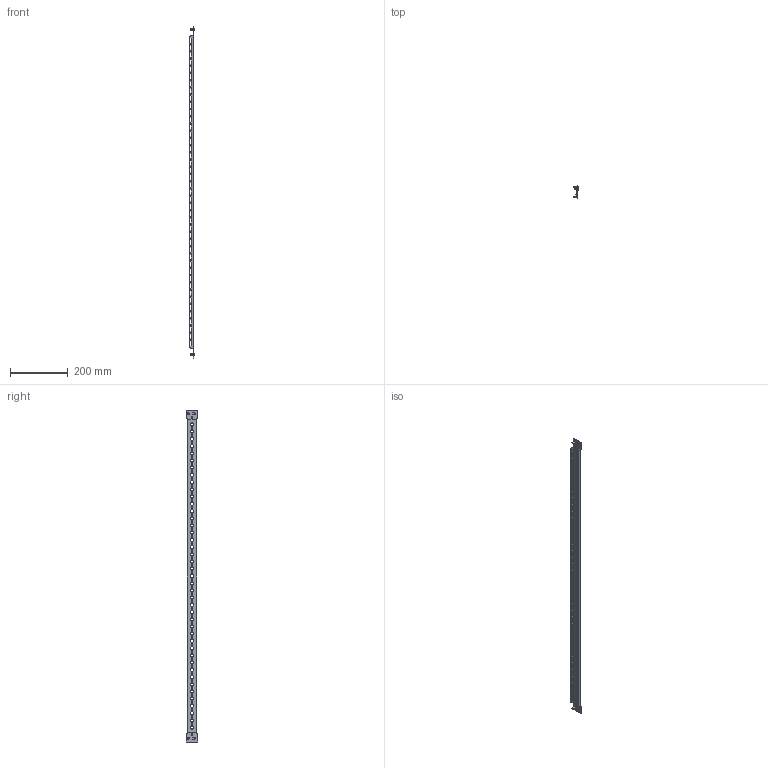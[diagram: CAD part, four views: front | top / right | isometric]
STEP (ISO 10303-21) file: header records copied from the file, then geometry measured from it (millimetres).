
FILE_DESCRIPTION(('Open CASCADE Model'),'2;1');
FILE_NAME('Open CASCADE Shape Model','2025-02-27T11:20:01',('Author'),( 'Open CASCADE'),'Open CASCADE STEP processor 7.8','Open CASCADE 7.8' ,'Unknown');
FILE_SCHEMA(('AUTOMOTIVE_DESIGN { 1 0 10303 214 1 1 1 1 }'));
Length unit declared in the file: millimetre
Products named in the file (3): Compound1; Solid1; Solid2
Assembly tree (3 placements, depth 2):
  Compound1
    Solid1
    Solid2  x2
Bounding box: 20.36 x 40 x 1150.04 mm (x, y, z)
Volume: 85253.1 mm3; surface area: 127557.9 mm2
Topology: 3 solids, 3 shells, 1308 faces, 3912 edges, 2612 vertices
Faces by surface type: plane 724, cylinder 572, torus 4, cone 4, sphere 2, bspline 2
Full cylindrical faces by diameter (mm): 4.2 x126, 5 x2, 6.5 x4, 9.5 x2
Entity records: 45208 total; most frequent: CARTESIAN_POINT 8274, ORIENTED_EDGE 7762, DIRECTION 7522, EDGE_CURVE 3881, VERTEX_POINT 2595, LINE 2540, VECTOR 2540, AXIS2_PLACEMENT_3D 2491
